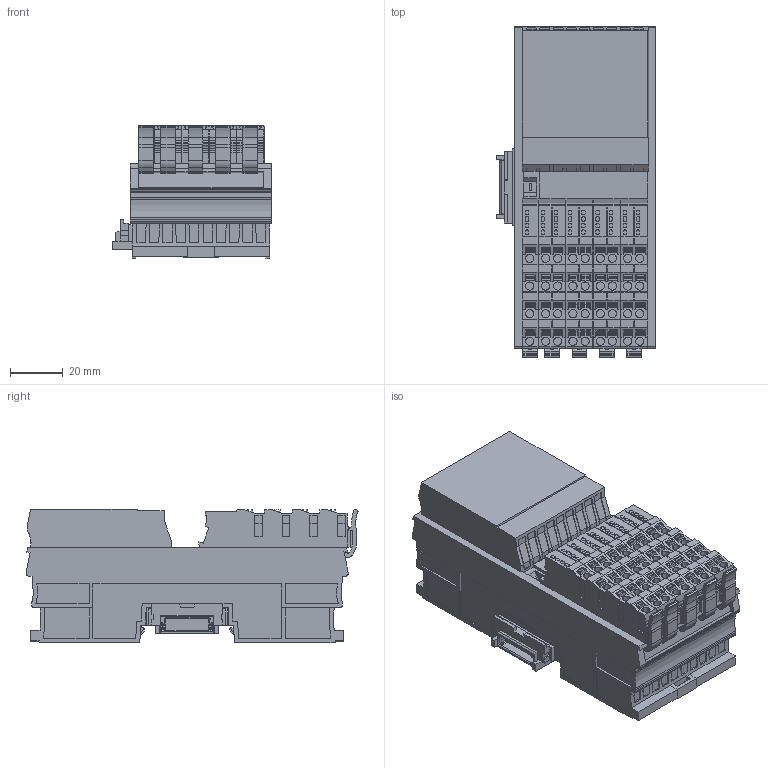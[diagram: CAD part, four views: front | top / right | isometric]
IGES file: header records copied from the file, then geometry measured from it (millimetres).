
Start section:  PTC IGES file: cu_rem-11178.igs
Global section: file name: cu_rem-11178.igs; native system: Creo Parametric by PTC Inc.; preprocessor: 2015380; author: dkendric; organization: Unknown; date: 20170511.120643; units: inch
Bounding box: 60.4 x 126.13 x 50.75 mm (x, y, z)
Surface area: 60721.8 mm2 (no closed solid volume)
Topology: 0 solids, 0 shells, 2955 faces, 16512 edges, 16512 vertices
Faces by surface type: bspline 2365, revolution 590
